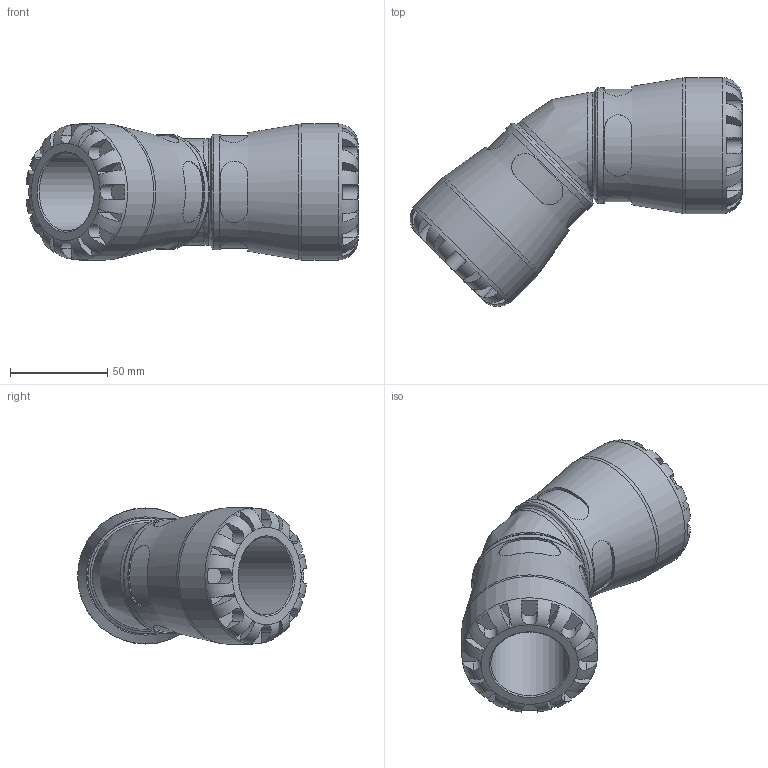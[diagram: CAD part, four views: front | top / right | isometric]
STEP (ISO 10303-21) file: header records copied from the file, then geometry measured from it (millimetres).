
FILE_DESCRIPTION(/* description */ ('PLASSON 45° ELBOW 40-40 SERIES 1'),/* implementation_level */ '2;1');
FILE_NAME(/* name */ 'C:\Dropbox\KIMPROJECTS-Inventor\99-16-3568-Processing\1006\100600040_190600040.ipt.stp',/* time_stamp */ '2017-01-22T11:45:31+02:00',/* author */ ('KIM'),/* organization */ (''),/* preprocessor_version */ 'ST-DEVELOPER v15.6',/* originating_system */ 'Autodesk Inventor 2015',/* authorisation */ '');
FILE_SCHEMA (('AUTOMOTIVE_DESIGN { 1 0 10303 214 3 1 1 }'));
Length unit declared in the file: millimetre
Products named in the file (1): 100600040_190600040
Bounding box: 170.65 x 117.65 x 70 mm (x, y, z)
Volume: 339895.5 mm3; surface area: 65532.8 mm2
Topology: 1 solids, 1 shells, 196 faces, 498 edges, 310 vertices
Faces by surface type: plane 116, cylinder 66, torus 11, cone 2, bspline 1
Full cylindrical faces by diameter (mm): 33.333 x2, 40 x2, 59.5 x2, 70 x2
Entity records: 7544 total; most frequent: CARTESIAN_POINT 2905, ORIENTED_EDGE 922, DIRECTION 896, EDGE_CURVE 461, AXIS2_PLACEMENT_3D 368, VERTEX_POINT 298, EDGE_LOOP 229, STYLED_ITEM 197
